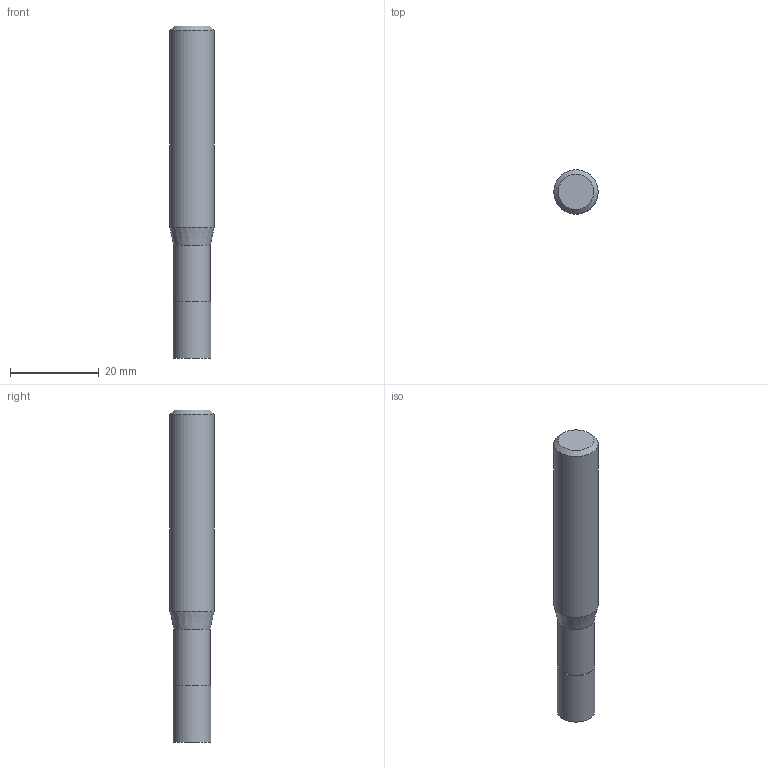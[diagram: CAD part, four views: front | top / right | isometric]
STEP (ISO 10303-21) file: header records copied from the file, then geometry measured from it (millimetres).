
FILE_DESCRIPTION((''),'2;1');
FILE_NAME('C:\Users\nsx150\AppData\Local\Temp\Mastercam 2021\EUJSUNXURU\TEMP.step','2021-04-22T10:29:32',(''),(''),'STEP Write','Mastercam 2021 ... CNC Software, Inc.','');
FILE_SCHEMA(('AUTOMOTIVE_DESIGN'));
Length unit declared in the file: millimetre
Products named in the file (1): None
Bounding box: 10 x 10 x 75 mm (x, y, z)
Volume: 5236.2 mm3; surface area: 2446.4 mm2
Topology: 2 solids, 2 shells, 9 faces, 12 edges, 7 vertices
Faces by surface type: plane 4, cylinder 3, cone 2
Full cylindrical faces by diameter (mm): 8.3 x1, 8.5 x1, 10 x1
Entity records: 211 total; most frequent: DIRECTION 36, CARTESIAN_POINT 25, AXIS2_PLACEMENT_3D 18, ORIENTED_EDGE 14, EDGE_LOOP 14, STYLED_ITEM 12, ADVANCED_FACE 9, FACE_BOUND 8
